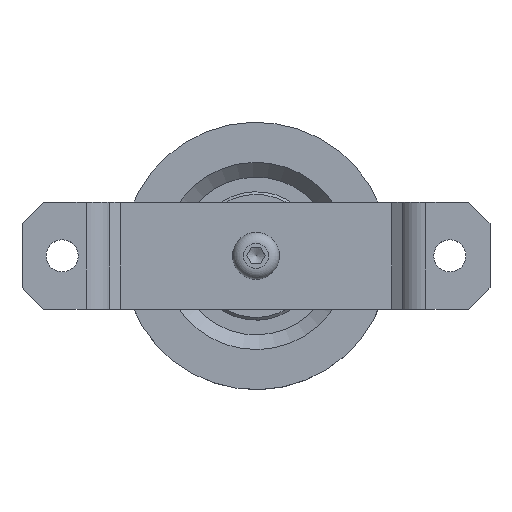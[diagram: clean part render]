
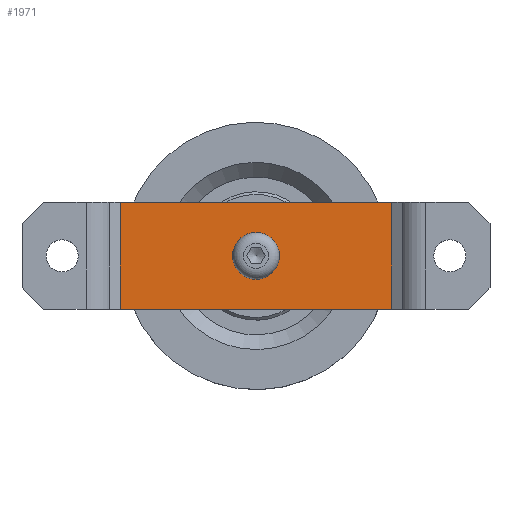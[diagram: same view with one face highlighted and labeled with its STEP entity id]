
A CAD part, top view. The second image highlights one B-rep face of the part: STEP entity #1971.
In plain terms, the highlighted planar face has unit normal (0, 0, 1).
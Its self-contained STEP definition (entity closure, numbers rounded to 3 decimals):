
#85=FACE_BOUND('',#459,.T.);
#173=CIRCLE('',#2266,5.5);
#332=FACE_OUTER_BOUND('',#458,.T.);
#458=EDGE_LOOP('',(#1566,#1567,#1568,#1569));
#459=EDGE_LOOP('',(#1570));
#628=LINE('',#3350,#784);
#632=LINE('',#3358,#788);
#635=LINE('',#3364,#791);
#638=LINE('',#3369,#794);
#784=VECTOR('',#2722,10.);
#788=VECTOR('',#2728,10.);
#791=VECTOR('',#2733,10.);
#794=VECTOR('',#2738,10.);
#910=VERTEX_POINT('',#3342);
#912=VERTEX_POINT('',#3348);
#913=VERTEX_POINT('',#3349);
#916=VERTEX_POINT('',#3357);
#918=VERTEX_POINT('',#3363);
#1141=EDGE_CURVE('',#910,#910,#173,.T.);
#1144=EDGE_CURVE('',#912,#913,#628,.T.);
#1148=EDGE_CURVE('',#913,#916,#632,.T.);
#1151=EDGE_CURVE('',#916,#918,#635,.T.);
#1154=EDGE_CURVE('',#918,#912,#638,.T.);
#1566=ORIENTED_EDGE('',*,*,#1144,.F.);
#1567=ORIENTED_EDGE('',*,*,#1154,.F.);
#1568=ORIENTED_EDGE('',*,*,#1151,.F.);
#1569=ORIENTED_EDGE('',*,*,#1148,.F.);
#1570=ORIENTED_EDGE('',*,*,#1141,.T.);
#1880=PLANE('',#2272);
#1971=ADVANCED_FACE('',(#332,#85),#1880,.T.);
#2266=AXIS2_PLACEMENT_3D('',#3343,#2715,#2716);
#2272=AXIS2_PLACEMENT_3D('',#3371,#2740,#2741);
#2715=DIRECTION('center_axis',(0.,0.,-1.));
#2716=DIRECTION('ref_axis',(-1.,0.,0.));
#2722=DIRECTION('',(0.,-1.,0.));
#2728=DIRECTION('',(-1.,0.,0.));
#2733=DIRECTION('',(0.,1.,0.));
#2738=DIRECTION('',(1.,0.,0.));
#2740=DIRECTION('center_axis',(0.,0.,1.));
#2741=DIRECTION('ref_axis',(1.,0.,0.));
#3342=CARTESIAN_POINT('',(5.5,0.,5.));
#3343=CARTESIAN_POINT('Origin',(0.,0.,5.));
#3348=CARTESIAN_POINT('',(53.,20.,5.));
#3349=CARTESIAN_POINT('',(53.,-20.,5.));
#3350=CARTESIAN_POINT('',(53.,20.,5.));
#3357=CARTESIAN_POINT('',(-53.,-20.,5.));
#3358=CARTESIAN_POINT('',(53.,-20.,5.));
#3363=CARTESIAN_POINT('',(-53.,20.,5.));
#3364=CARTESIAN_POINT('',(-53.,-20.,5.));
#3369=CARTESIAN_POINT('',(-53.,20.,5.));
#3371=CARTESIAN_POINT('Origin',(0.,0.,5.));
